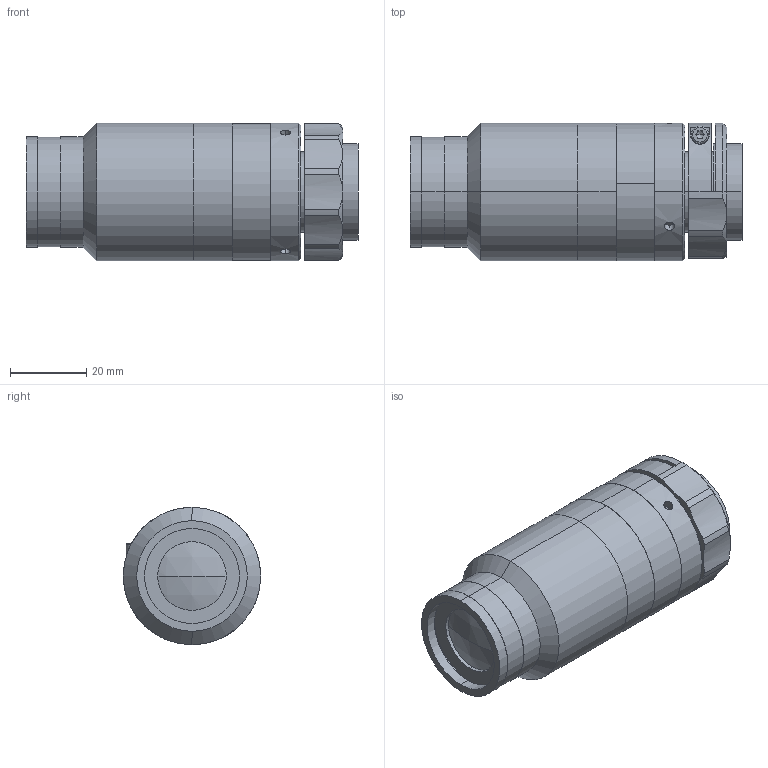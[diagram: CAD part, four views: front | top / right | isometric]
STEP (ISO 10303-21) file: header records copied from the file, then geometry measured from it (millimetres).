
FILE_DESCRIPTION (( 'STEP AP203' ), '1' );
FILE_NAME ('XF-MH03X240.STEP', '2020-08-24T07:10:01', ( 'canrill-02' ), ( '' ), 'SwSTEP 2.0', 'SolidWorks 2014', '' );
FILE_SCHEMA (( 'CONFIG_CONTROL_DESIGN' ));
Length unit declared in the file: millimetre
Products named in the file (1): XF-MH03X240
Bounding box: 87 x 36 x 36 mm (x, y, z)
Surface area: 15678.2 mm2 (no closed solid volume)
Topology: 0 solids, 10 shells, 101 faces, 264 edges, 176 vertices
Faces by surface type: cylinder 49, plane 33, cone 15, sphere 2, torus 2
Entity records: 3477 total; most frequent: CARTESIAN_POINT 861, DIRECTION 581, ORIENTED_EDGE 454, EDGE_CURVE 262, AXIS2_PLACEMENT_3D 240, VERTEX_POINT 176, CIRCLE 138, EDGE_LOOP 124
